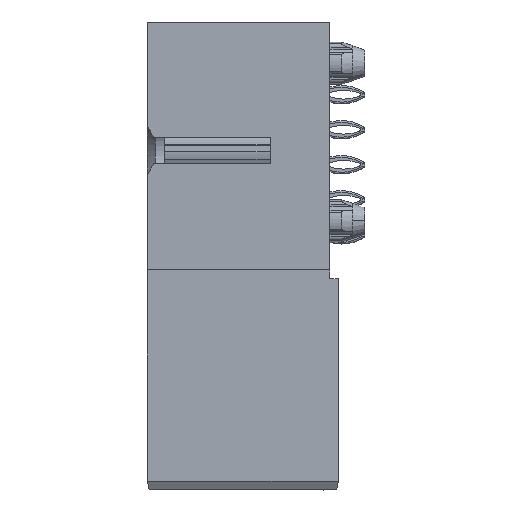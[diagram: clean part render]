
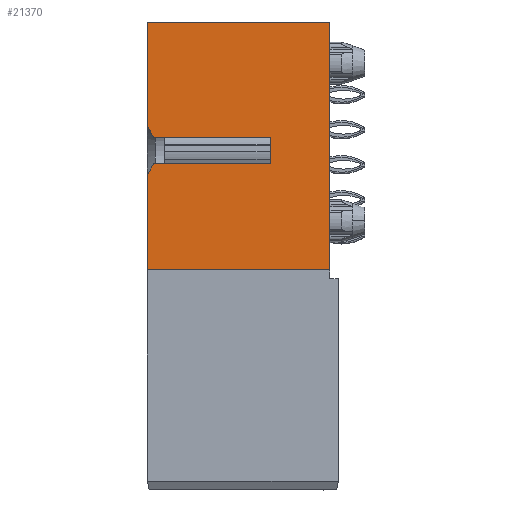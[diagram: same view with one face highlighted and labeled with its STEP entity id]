
A CAD part, left-side view. The second image highlights one B-rep face of the part: STEP entity #21370.
In plain terms, the highlighted planar face has unit normal (-1, 0, 0) as drawn and (1, 0, 0) by its records, which use the part's own axes.
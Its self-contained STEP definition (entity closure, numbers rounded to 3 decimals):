
#2486 = DIRECTION ( 'NONE',  ( 0., 1., 0. ) ) ;
#2487 = CARTESIAN_POINT ( 'NONE',  ( -23.405, -5.4, 6.59 ) ) ;
#2498 = LINE ( 'NONE', #2487, #18913 ) ;
#2572 = DIRECTION ( 'NONE',  ( 0., -1., 0. ) ) ;
#2573 = CARTESIAN_POINT ( 'NONE',  ( -23.405, -5.4, 5.09 ) ) ;
#2574 = LINE ( 'NONE', #2573, #18896 ) ;
#2602 = DIRECTION ( 'NONE',  ( 0., 0., -1. ) ) ;
#2603 = CARTESIAN_POINT ( 'NONE',  ( -23.405, -5.4, 12.8 ) ) ;
#2618 = LINE ( 'NONE', #2603, #18880 ) ;
#4543 = CARTESIAN_POINT ( 'NONE',  ( -23.405, 5., 7.225 ) ) ;
#4544 = CARTESIAN_POINT ( 'NONE',  ( -23.405, 4.907, 7.083 ) ) ;
#4545 = CARTESIAN_POINT ( 'NONE',  ( -23.405, 4.819, 6.938 ) ) ;
#4546 = CARTESIAN_POINT ( 'NONE',  ( -23.405, 4.708, 6.723 ) ) ;
#4559 = CARTESIAN_POINT ( 'NONE',  ( -23.405, 4.677, 6.657 ) ) ;
#4560 = CARTESIAN_POINT ( 'NONE',  ( -23.405, 4.648, 6.59 ) ) ;
#4568 = DIRECTION ( 'NONE',  ( 0., -1., 0. ) ) ;
#4570 = CARTESIAN_POINT ( 'NONE',  ( -23.405, -5.4, 12.65 ) ) ;
#4573 = LINE ( 'NONE', #4570, #18614 ) ;
#6006 = VERTEX_POINT ( 'NONE', #36411 ) ;
#6014 = VERTEX_POINT ( 'NONE', #36420 ) ;
#6015 = VERTEX_POINT ( 'NONE', #36421 ) ;
#6025 = VERTEX_POINT ( 'NONE', #36425 ) ;
#6028 = VERTEX_POINT ( 'NONE', #36441 ) ;
#6037 = VERTEX_POINT ( 'NONE', #36450 ) ;
#6040 = VERTEX_POINT ( 'NONE', #36454 ) ;
#6043 = VERTEX_POINT ( 'NONE', #36449 ) ;
#6078 = VERTEX_POINT ( 'NONE', #36487 ) ;
#6086 = VERTEX_POINT ( 'NONE', #36495 ) ;
#6397 = B_SPLINE_CURVE_WITH_KNOTS ( 'NONE', 3,
 ( #37802, #38061, #38042, #37917, #37202, #38020 ),
 .UNSPECIFIED., .F., .F.,
 ( 4, 2, 4 ),
 ( 0., 0.001, 0.001 ),
 .UNSPECIFIED. ) ;
#6423 = B_SPLINE_CURVE_WITH_KNOTS ( 'NONE', 3,
 ( #4560, #4559, #4546, #4545, #4544, #4543 ),
 .UNSPECIFIED., .F., .F.,
 ( 4, 2, 4 ),
 ( 0., 0., 0.001 ),
 .UNSPECIFIED. ) ;
#14974 = VECTOR ( 'NONE', #36051, 1000. ) ;
#15609 = AXIS2_PLACEMENT_3D ( 'NONE', #26697, #26583, #26582 ) ;
#18614 = VECTOR ( 'NONE', #4568, 1000. ) ;
#18880 = VECTOR ( 'NONE', #2602, 1000. ) ;
#18896 = VECTOR ( 'NONE', #2572, 1000. ) ;
#18913 = VECTOR ( 'NONE', #2486, 1000. ) ;
#21135 = EDGE_CURVE ( 'NONE', #6086, #6078, #36058, .T. ) ;
#21370 = ADVANCED_FACE ( 'NONE', ( #26595 ), #26587, .T. ) ;
#22845 = EDGE_LOOP ( 'NONE', ( #39381, #39380, #39379, #39378, #39377, #39374, #39373, #39371, #39370, #39368 ) ) ;
#25240 = EDGE_CURVE ( 'NONE', #6006, #6037, #6397, .T. ) ;
#25252 = EDGE_CURVE ( 'NONE', #6015, #6006, #37459, .T. ) ;
#25253 = EDGE_CURVE ( 'NONE', #6025, #6014, #38024, .T. ) ;
#25261 = EDGE_CURVE ( 'NONE', #6043, #6015, #37372, .T. ) ;
#25392 = EDGE_CURVE ( 'NONE', #6014, #6040, #4573, .T. ) ;
#25398 = EDGE_CURVE ( 'NONE', #6028, #6025, #6423, .T. ) ;
#25630 = EDGE_CURVE ( 'NONE', #6040, #6043, #2618, .T. ) ;
#25640 = EDGE_CURVE ( 'NONE', #6037, #6078, #2574, .T. ) ;
#25666 = EDGE_CURVE ( 'NONE', #6086, #6028, #2498, .T. ) ;
#26086 = VECTOR ( 'NONE', #37620, 1000. ) ;
#26092 = VECTOR ( 'NONE', #37753, 1000. ) ;
#26102 = VECTOR ( 'NONE', #38142, 1000. ) ;
#26582 = DIRECTION ( 'NONE',  ( 0., 0., -1. ) ) ;
#26583 = DIRECTION ( 'NONE',  ( 1., 0., 0. ) ) ;
#26587 = PLANE ( 'NONE',  #15609 ) ;
#26595 = FACE_OUTER_BOUND ( 'NONE', #22845, .T. ) ;
#26697 = CARTESIAN_POINT ( 'NONE',  ( -23.405, -5.4, 12.8 ) ) ;
#36051 = DIRECTION ( 'NONE',  ( 0., 0., -1. ) ) ;
#36058 = LINE ( 'NONE', #36066, #14974 ) ;
#36066 = CARTESIAN_POINT ( 'NONE',  ( -23.405, -2., 4.17 ) ) ;
#36411 = CARTESIAN_POINT ( 'NONE',  ( -23.405, 5., 4.455 ) ) ;
#36420 = CARTESIAN_POINT ( 'NONE',  ( -23.405, 5., 12.65 ) ) ;
#36421 = CARTESIAN_POINT ( 'NONE',  ( -23.405, 5., -1.5 ) ) ;
#36425 = CARTESIAN_POINT ( 'NONE',  ( -23.405, 5., 7.225 ) ) ;
#36441 = CARTESIAN_POINT ( 'NONE',  ( -23.405, 4.648, 6.59 ) ) ;
#36449 = CARTESIAN_POINT ( 'NONE',  ( -23.405, -5.4, -1.5 ) ) ;
#36450 = CARTESIAN_POINT ( 'NONE',  ( -23.405, 4.648, 5.09 ) ) ;
#36454 = CARTESIAN_POINT ( 'NONE',  ( -23.405, -5.4, 12.65 ) ) ;
#36487 = CARTESIAN_POINT ( 'NONE',  ( -23.405, -2., 5.09 ) ) ;
#36495 = CARTESIAN_POINT ( 'NONE',  ( -23.405, -2., 6.59 ) ) ;
#37202 = CARTESIAN_POINT ( 'NONE',  ( -23.405, 4.677, 5.023 ) ) ;
#37207 = CARTESIAN_POINT ( 'NONE',  ( -23.405, -5.4, -1.5 ) ) ;
#37372 = LINE ( 'NONE', #37207, #26102 ) ;
#37459 = LINE ( 'NONE', #37718, #26086 ) ;
#37620 = DIRECTION ( 'NONE',  ( 0., 0., 1. ) ) ;
#37718 = CARTESIAN_POINT ( 'NONE',  ( -23.405, 5., 24.72 ) ) ;
#37753 = DIRECTION ( 'NONE',  ( 0., 0., 1. ) ) ;
#37802 = CARTESIAN_POINT ( 'NONE',  ( -23.405, 5., 4.455 ) ) ;
#37917 = CARTESIAN_POINT ( 'NONE',  ( -23.405, 4.708, 4.957 ) ) ;
#38006 = CARTESIAN_POINT ( 'NONE',  ( -23.405, 5., 24.72 ) ) ;
#38020 = CARTESIAN_POINT ( 'NONE',  ( -23.405, 4.648, 5.09 ) ) ;
#38024 = LINE ( 'NONE', #38006, #26092 ) ;
#38042 = CARTESIAN_POINT ( 'NONE',  ( -23.405, 4.819, 4.742 ) ) ;
#38061 = CARTESIAN_POINT ( 'NONE',  ( -23.405, 4.907, 4.597 ) ) ;
#38142 = DIRECTION ( 'NONE',  ( 0., 1., 0. ) ) ;
#39368 = ORIENTED_EDGE ( 'NONE', *, *, #25398, .T. ) ;
#39370 = ORIENTED_EDGE ( 'NONE', *, *, #25666, .T. ) ;
#39371 = ORIENTED_EDGE ( 'NONE', *, *, #21135, .F. ) ;
#39373 = ORIENTED_EDGE ( 'NONE', *, *, #25640, .T. ) ;
#39374 = ORIENTED_EDGE ( 'NONE', *, *, #25240, .T. ) ;
#39377 = ORIENTED_EDGE ( 'NONE', *, *, #25252, .T. ) ;
#39378 = ORIENTED_EDGE ( 'NONE', *, *, #25261, .T. ) ;
#39379 = ORIENTED_EDGE ( 'NONE', *, *, #25630, .T. ) ;
#39380 = ORIENTED_EDGE ( 'NONE', *, *, #25392, .T. ) ;
#39381 = ORIENTED_EDGE ( 'NONE', *, *, #25253, .T. ) ;
